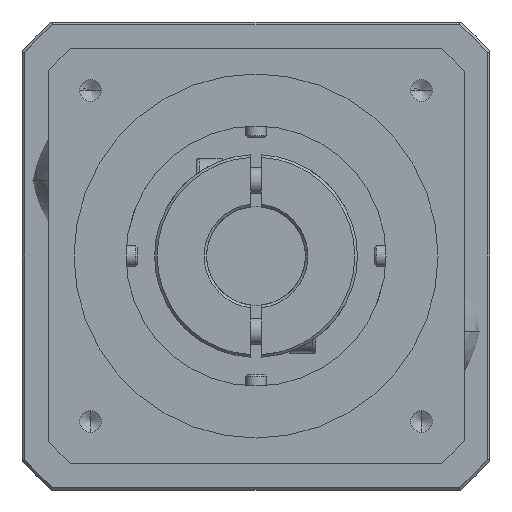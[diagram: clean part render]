
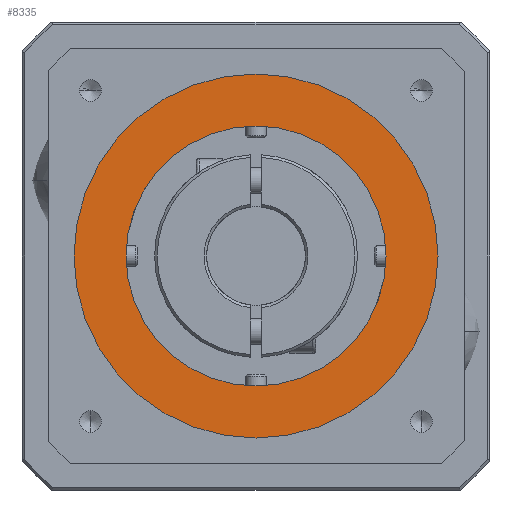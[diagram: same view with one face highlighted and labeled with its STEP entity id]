
A CAD part, left-side view. The second image highlights one B-rep face of the part: STEP entity #8335.
In plain terms, the highlighted planar face has unit normal (-1, 0, 0) as drawn and (0, 0, 1) by its records, which use the part's own axes.
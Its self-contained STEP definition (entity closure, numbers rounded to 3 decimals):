
#173 = CARTESIAN_POINT ( 'NONE',  ( 0., 0., 33.5 ) ) ;
#205 = AXIS2_PLACEMENT_3D ( 'NONE', #5854, #5739, #4410 ) ;
#739 = VERTEX_POINT ( 'NONE', #8682 ) ;
#941 = EDGE_LOOP ( 'NONE', ( #5668, #1221 ) ) ;
#979 = CARTESIAN_POINT ( 'NONE',  ( 0., 0., 33.5 ) ) ;
#982 = DIRECTION ( 'NONE',  ( 0., 0., 1. ) ) ;
#1010 = DIRECTION ( 'NONE',  ( 0., 0., -1. ) ) ;
#1221 = ORIENTED_EDGE ( 'NONE', *, *, #3355, .T. ) ;
#1636 = EDGE_CURVE ( 'NONE', #5027, #5441, #2021, .T. ) ;
#2021 = CIRCLE ( 'NONE', #3548, 25. ) ;
#2290 = EDGE_CURVE ( 'NONE', #5441, #5027, #4100, .T. ) ;
#2523 = ORIENTED_EDGE ( 'NONE', *, *, #2290, .T. ) ;
#3057 = DIRECTION ( 'NONE',  ( 1., 0., 0. ) ) ;
#3355 = EDGE_CURVE ( 'NONE', #7290, #739, #7396, .T. ) ;
#3389 = CARTESIAN_POINT ( 'NONE',  ( 25., 0., 33.5 ) ) ;
#3548 = AXIS2_PLACEMENT_3D ( 'NONE', #979, #1010, #7284 ) ;
#3744 = DIRECTION ( 'NONE',  ( 0., 0., 1. ) ) ;
#3782 = DIRECTION ( 'NONE',  ( 1., 0., 0. ) ) ;
#3835 = ORIENTED_EDGE ( 'NONE', *, *, #1636, .T. ) ;
#4100 = CIRCLE ( 'NONE', #205, 25. ) ;
#4410 = DIRECTION ( 'NONE',  ( 1., 0., 0. ) ) ;
#4445 = CARTESIAN_POINT ( 'NONE',  ( 0., 0., 33.5 ) ) ;
#4889 = CARTESIAN_POINT ( 'NONE',  ( -25., 0., 33.5 ) ) ;
#5027 = VERTEX_POINT ( 'NONE', #4889 ) ;
#5441 = VERTEX_POINT ( 'NONE', #3389 ) ;
#5510 = AXIS2_PLACEMENT_3D ( 'NONE', #173, #3744, #3057 ) ;
#5668 = ORIENTED_EDGE ( 'NONE', *, *, #8530, .T. ) ;
#5708 = CARTESIAN_POINT ( 'NONE',  ( -35., 0., 33.5 ) ) ;
#5739 = DIRECTION ( 'NONE',  ( 0., 0., -1. ) ) ;
#5854 = CARTESIAN_POINT ( 'NONE',  ( 0., 0., 33.5 ) ) ;
#6129 = DIRECTION ( 'NONE',  ( 0., 0., 1. ) ) ;
#6534 = EDGE_LOOP ( 'NONE', ( #2523, #3835 ) ) ;
#7211 = AXIS2_PLACEMENT_3D ( 'NONE', #7458, #6129, #8224 ) ;
#7221 = PLANE ( 'NONE',  #5510 ) ;
#7284 = DIRECTION ( 'NONE',  ( 1., 0., 0. ) ) ;
#7290 = VERTEX_POINT ( 'NONE', #5708 ) ;
#7396 = CIRCLE ( 'NONE', #7697, 35. ) ;
#7458 = CARTESIAN_POINT ( 'NONE',  ( 0., 0., 33.5 ) ) ;
#7697 = AXIS2_PLACEMENT_3D ( 'NONE', #4445, #982, #3782 ) ;
#7915 = FACE_BOUND ( 'NONE', #6534, .T. ) ;
#8134 = FACE_OUTER_BOUND ( 'NONE', #941, .T. ) ;
#8224 = DIRECTION ( 'NONE',  ( 1., 0., 0. ) ) ;
#8335 = ADVANCED_FACE ( 'NONE', ( #8134, #7915 ), #7221, .T. ) ;
#8446 = CIRCLE ( 'NONE', #7211, 35. ) ;
#8530 = EDGE_CURVE ( 'NONE', #739, #7290, #8446, .T. ) ;
#8682 = CARTESIAN_POINT ( 'NONE',  ( 35., 0., 33.5 ) ) ;
